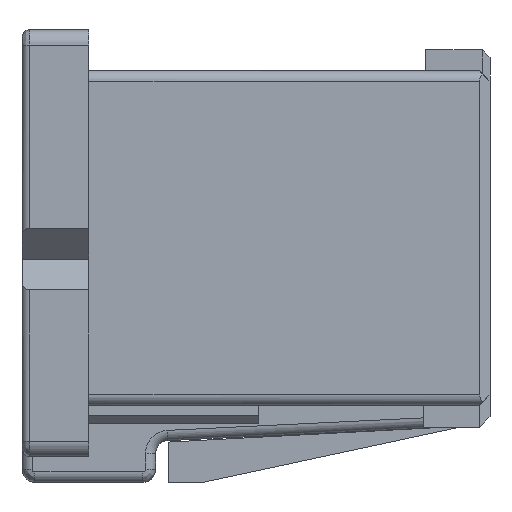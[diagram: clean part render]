
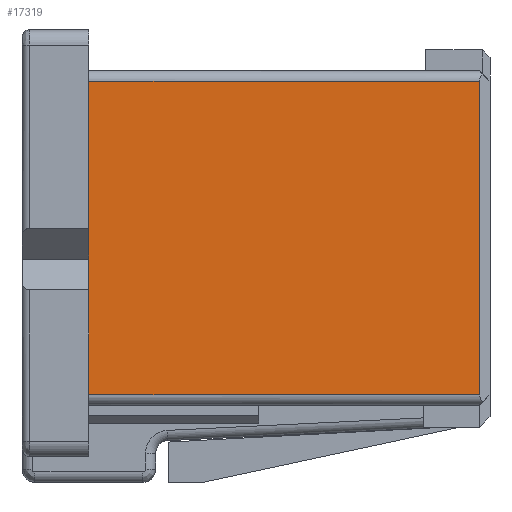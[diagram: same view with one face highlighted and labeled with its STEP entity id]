
A CAD part, left-side view. The second image highlights one B-rep face of the part: STEP entity #17319.
In plain terms, the highlighted planar face has unit normal (-1, 0, 0).
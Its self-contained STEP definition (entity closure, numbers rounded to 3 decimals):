
#2582=CARTESIAN_POINT('',(-8.325,-7.6,3.15));
#2588=CARTESIAN_POINT('',(-8.325,-7.6,-2.95));
#2598=DIRECTION('',(0.,1.,0.));
#2599=VECTOR('',#2598,7.6);
#2600=CARTESIAN_POINT('',(-8.325,-7.6,3.15));
#2601=LINE('',#2600,#2599);
#2602=DIRECTION('',(0.,0.,1.));
#2603=VECTOR('',#2602,6.1);
#2604=CARTESIAN_POINT('',(-8.325,-7.6,-2.95));
#2605=LINE('',#2604,#2603);
#2606=DIRECTION('',(0.,-1.,0.));
#2607=VECTOR('',#2606,7.6);
#2608=CARTESIAN_POINT('',(-8.325,0.,-2.95));
#2609=LINE('',#2608,#2607);
#2777=DIRECTION('',(0.,0.,-1.));
#2778=VECTOR('',#2777,6.1);
#2779=CARTESIAN_POINT('',(-8.325,0.,3.15));
#2780=LINE('',#2779,#2778);
#10851=VERTEX_POINT('',#2582);
#10852=CARTESIAN_POINT('',(-8.325,0.,3.15));
#10853=VERTEX_POINT('',#10852);
#10854=VERTEX_POINT('',#2588);
#10859=CARTESIAN_POINT('',(-8.325,0.,-2.95));
#10860=VERTEX_POINT('',#10859);
#17306=CARTESIAN_POINT('',(-8.325,0.,0.));
#17307=DIRECTION('',(1.,0.,0.));
#17308=DIRECTION('',(0.,0.,-1.));
#17309=AXIS2_PLACEMENT_3D('',#17306,#17307,#17308);
#17310=PLANE('',#17309);
#17311=ORIENTED_EDGE('',*,*,#17299,.F.);
#17312=ORIENTED_EDGE('',*,*,#17286,.F.);
#17314=ORIENTED_EDGE('',*,*,#17313,.F.);
#17316=ORIENTED_EDGE('',*,*,#17315,.F.);
#17317=EDGE_LOOP('',(#17311,#17312,#17314,#17316));
#17318=FACE_OUTER_BOUND('',#17317,.F.);
#17286=EDGE_CURVE('',#10854,#10851,#2605,.T.);
#17299=EDGE_CURVE('',#10851,#10853,#2601,.T.);
#17313=EDGE_CURVE('',#10860,#10854,#2609,.T.);
#17315=EDGE_CURVE('',#10853,#10860,#2780,.T.);
#17319=ADVANCED_FACE('',(#17318),#17310,.F.);
